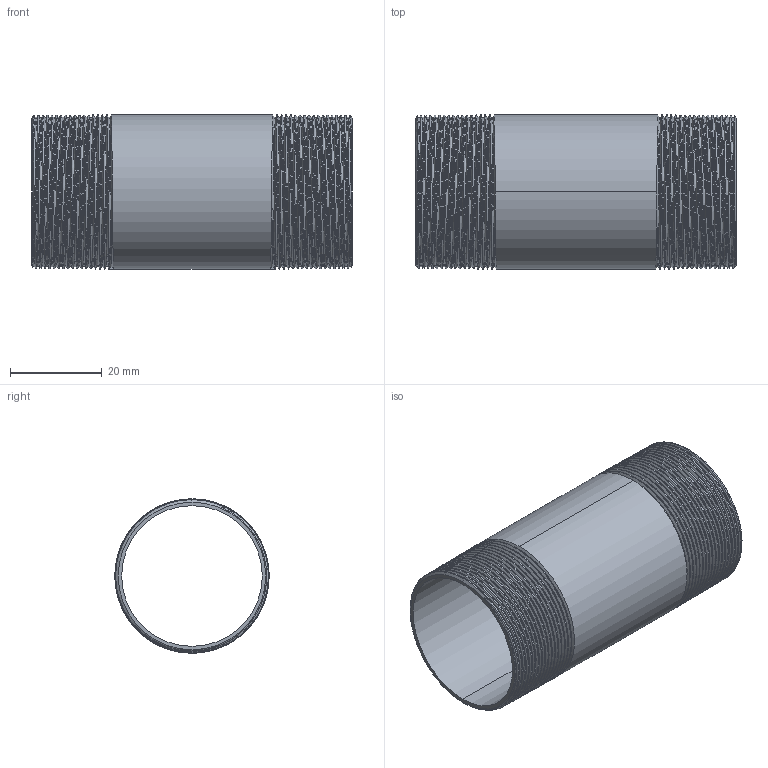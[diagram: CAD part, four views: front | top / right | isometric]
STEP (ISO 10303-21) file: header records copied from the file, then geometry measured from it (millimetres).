
FILE_DESCRIPTION (( 'STEP AP203' ), '1' );
FILE_NAME ('3D_R210_1x70_17185697.STEP', '2024-08-16T11:12:52', ( '' ), ( '' ), 'SwSTEP 2.0', 'SolidWorks 2024', '' );
FILE_SCHEMA (( 'CONFIG_CONTROL_DESIGN' ));
Length unit declared in the file: millimetre
Products named in the file (1): 3D_R210_1x70_17185697
Bounding box: 70 x 33.69 x 33.7 mm (x, y, z)
Volume: 9449.1 mm3; surface area: 16162.6 mm2
Topology: 1 solids, 1 shells, 88 faces, 250 edges, 164 vertices
Faces by surface type: cone 74, bspline 6, cylinder 4, plane 4
Entity records: 15477 total; most frequent: CARTESIAN_POINT 13431, ORIENTED_EDGE 500, DIRECTION 278, EDGE_CURVE 250, VERTEX_POINT 164, B_SPLINE_CURVE_WITH_KNOTS 144, AXIS2_PLACEMENT_3D 97, EDGE_LOOP 90
